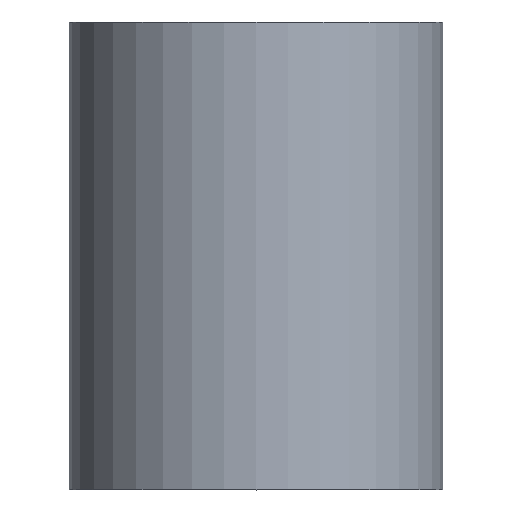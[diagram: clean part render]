
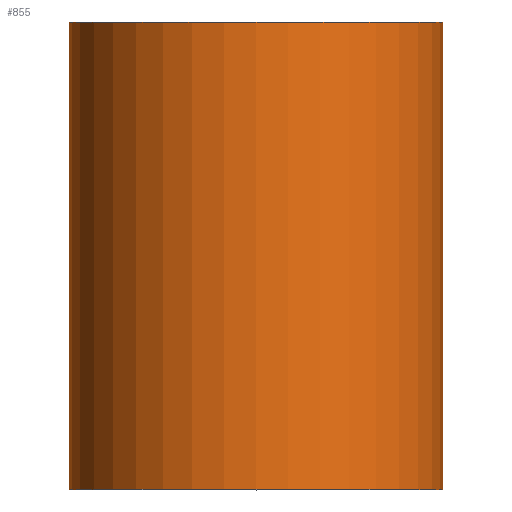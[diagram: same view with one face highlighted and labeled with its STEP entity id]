
A CAD part, top view. The second image highlights one B-rep face of the part: STEP entity #855.
In plain terms, the highlighted cylindrical face has radius 10 mm (diameter 20 mm), a partial arc.
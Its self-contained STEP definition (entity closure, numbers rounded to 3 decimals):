
#25 = VERTEX_POINT ( 'NONE', #317 ) ;
#58 = CARTESIAN_POINT ( 'NONE',  ( 10., 12.5, 0. ) ) ;
#60 = DIRECTION ( 'NONE',  ( 0., 1., 0. ) ) ;
#62 = EDGE_CURVE ( 'NONE', #676, #776, #878, .T. ) ;
#106 = ORIENTED_EDGE ( 'NONE', *, *, #62, .T. ) ;
#128 = EDGE_CURVE ( 'NONE', #308, #676, #342, .T. ) ;
#143 = CARTESIAN_POINT ( 'NONE',  ( -10., -12.5, 0. ) ) ;
#173 = ORIENTED_EDGE ( 'NONE', *, *, #180, .F. ) ;
#180 = EDGE_CURVE ( 'NONE', #25, #776, #462, .T. ) ;
#195 = ORIENTED_EDGE ( 'NONE', *, *, #128, .T. ) ;
#213 = AXIS2_PLACEMENT_3D ( 'NONE', #584, #351, #858 ) ;
#270 = DIRECTION ( 'NONE',  ( 0., 1., 0. ) ) ;
#280 = EDGE_LOOP ( 'NONE', ( #195, #106, #173, #573 ) ) ;
#291 = LINE ( 'NONE', #800, #403 ) ;
#308 = VERTEX_POINT ( 'NONE', #143 ) ;
#317 = CARTESIAN_POINT ( 'NONE',  ( -10., 12.5, 0. ) ) ;
#342 = CIRCLE ( 'NONE', #213, 10. ) ;
#351 = DIRECTION ( 'NONE',  ( 0., 1., 0. ) ) ;
#403 = VECTOR ( 'NONE', #678, 1000. ) ;
#424 = DIRECTION ( 'NONE',  ( 0., 1., 0. ) ) ;
#445 = AXIS2_PLACEMENT_3D ( 'NONE', #503, #424, #725 ) ;
#462 = CIRCLE ( 'NONE', #445, 10. ) ;
#476 = VECTOR ( 'NONE', #60, 1000. ) ;
#488 = FACE_OUTER_BOUND ( 'NONE', #280, .T. ) ;
#503 = CARTESIAN_POINT ( 'NONE',  ( 0., 12.5, 0. ) ) ;
#573 = ORIENTED_EDGE ( 'NONE', *, *, #610, .F. ) ;
#574 = CARTESIAN_POINT ( 'NONE',  ( 0., 0., 0. ) ) ;
#582 = CYLINDRICAL_SURFACE ( 'NONE', #762, 10. ) ;
#584 = CARTESIAN_POINT ( 'NONE',  ( 0., -12.5, 0. ) ) ;
#610 = EDGE_CURVE ( 'NONE', #308, #25, #291, .T. ) ;
#676 = VERTEX_POINT ( 'NONE', #840 ) ;
#678 = DIRECTION ( 'NONE',  ( 0., 1., 0. ) ) ;
#720 = CARTESIAN_POINT ( 'NONE',  ( 10., 0., 0. ) ) ;
#725 = DIRECTION ( 'NONE',  ( -1., 0., 0. ) ) ;
#762 = AXIS2_PLACEMENT_3D ( 'NONE', #574, #270, #782 ) ;
#776 = VERTEX_POINT ( 'NONE', #58 ) ;
#782 = DIRECTION ( 'NONE',  ( -1., 0., 0. ) ) ;
#800 = CARTESIAN_POINT ( 'NONE',  ( -10., 0., 0. ) ) ;
#840 = CARTESIAN_POINT ( 'NONE',  ( 10., -12.5, 0. ) ) ;
#855 = ADVANCED_FACE ( 'NONE', ( #488 ), #582, .T. ) ;
#858 = DIRECTION ( 'NONE',  ( -1., 0., 0. ) ) ;
#878 = LINE ( 'NONE', #720, #476 ) ;
